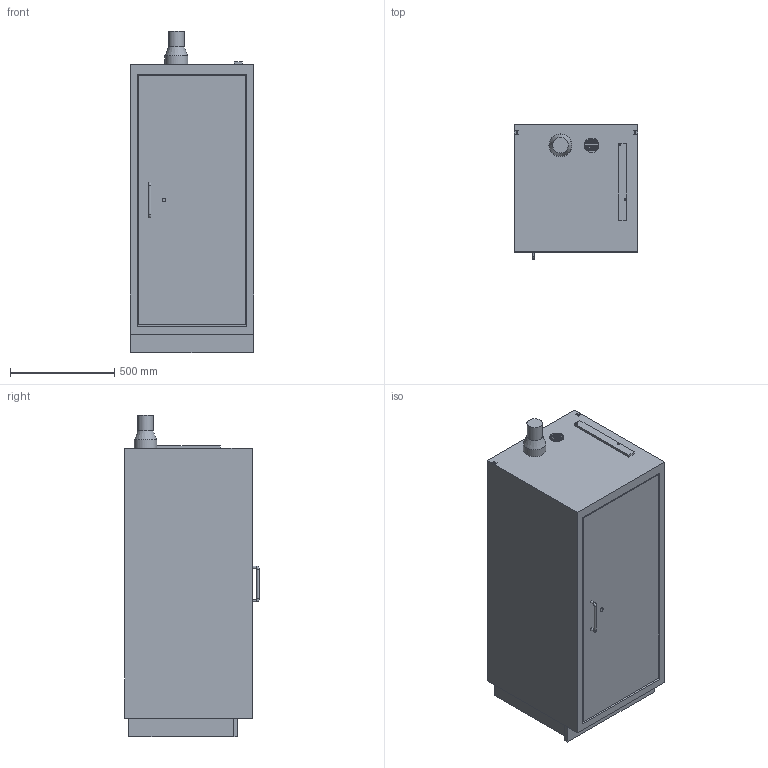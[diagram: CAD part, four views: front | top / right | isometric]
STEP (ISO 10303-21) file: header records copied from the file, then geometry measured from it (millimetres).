
FILE_DESCRIPTION(/* description */ ('Unknown'),/* implementation_level */ '2;1');
FILE_NAME(/* name */ 'Sicherheitsschrank Typ 90_D00086249',/* time_stamp */ '2019-04-10T11:18:22+02:00',/* author */ ('Unknown'),/* organization */ ('Unknown'),/* preprocessor_version */ 'ST-DEVELOPER v16.7',/* originating_system */ 'DEX',/* authorisation */ $);
FILE_SCHEMA (('AUTOMOTIVE_DESIGN {1 0 10303 214 3 1 1}'));
Length unit declared in the file: millimetre
Products named in the file (1): Sicherheitsschrank Typ 90_D00086249
Bounding box: 594 x 647 x 1543 mm (x, y, z)
Volume: 473625068.2 mm3; surface area: 4679418.7 mm2
Topology: 1 solids, 1 shells, 106 faces, 254 edges, 169 vertices
Faces by surface type: plane 79, cylinder 24, torus 2, cone 1
Full cylindrical faces by diameter (mm): 6.2 x2, 7.5 x2, 12 x3, 18 x1, 75 x1, 109.5 x1
Entity records: 3729 total; most frequent: CARTESIAN_POINT 509, DIRECTION 500, ORIENTED_EDGE 474, EDGE_CURVE 237, LINE 188, VECTOR 188, VERTEX_POINT 165, AXIS2_PLACEMENT_3D 156
